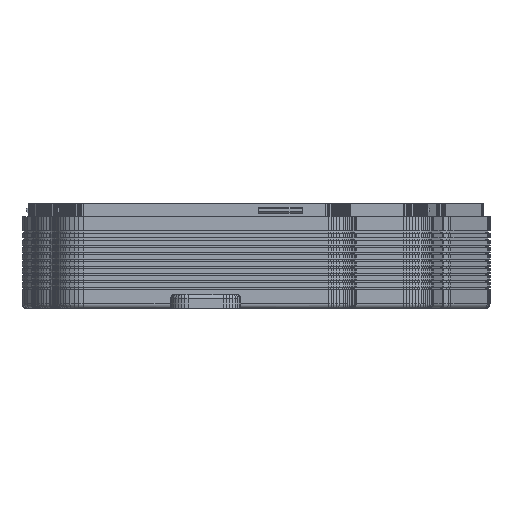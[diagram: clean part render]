
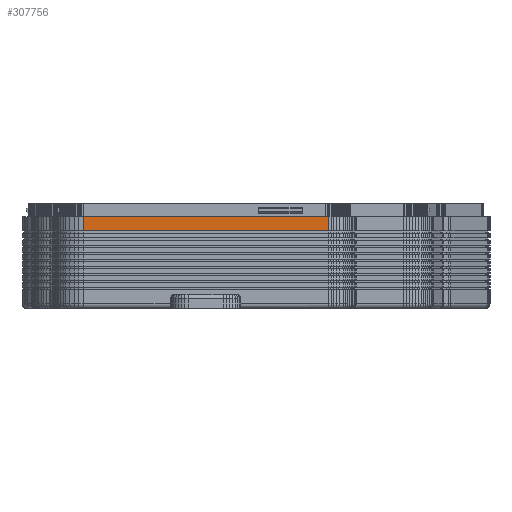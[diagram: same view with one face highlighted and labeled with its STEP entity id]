
A CAD part, left-side view. The second image highlights one B-rep face of the part: STEP entity #307756.
In plain terms, the highlighted planar face has unit normal (-1, 0, 0).
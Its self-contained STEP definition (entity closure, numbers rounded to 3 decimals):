
#43 = PLANE('',#44);
#44 = AXIS2_PLACEMENT_3D('',#45,#46,#47);
#45 = CARTESIAN_POINT('',(65.902,-25.832,-1.));
#46 = DIRECTION('',(0.,0.,1.));
#47 = DIRECTION('',(1.,0.,-0.));
#296941 = PLANE('',#296942);
#296942 = AXIS2_PLACEMENT_3D('',#296943,#296944,#296945);
#296943 = CARTESIAN_POINT('',(65.902,-25.832,
    -4.223));
#296944 = DIRECTION('',(0.,0.,1.));
#296945 = DIRECTION('',(1.,0.,-0.));
#301965 = VERTEX_POINT('',#301966);
#301966 = CARTESIAN_POINT('',(-15.424,8.601,
    -4.223));
#301980 = PLANE('',#301981);
#301981 = AXIS2_PLACEMENT_3D('',#301982,#301983,#301984);
#301982 = CARTESIAN_POINT('',(-15.328,9.67,
    -21.847));
#301983 = DIRECTION('',(0.996,-0.09,0.));
#301984 = DIRECTION('',(-0.09,-0.996,0.));
#301992 = EDGE_CURVE('',#301965,#301993,#301995,.T.);
#301993 = VERTEX_POINT('',#301994);
#301994 = CARTESIAN_POINT('',(-15.402,-47.167,
    -4.223));
#301995 = SURFACE_CURVE('',#301996,(#302000,#302007),.PCURVE_S1.);
#301996 = LINE('',#301997,#301998);
#301997 = CARTESIAN_POINT('',(-15.424,8.601,
    -4.223));
#301998 = VECTOR('',#301999,1.);
#301999 = DIRECTION('',(0.,-1.,0.));
#302000 = PCURVE('',#296941,#302001);
#302001 = DEFINITIONAL_REPRESENTATION('',(#302002),#302006);
#302002 = LINE('',#302003,#302004);
#302003 = CARTESIAN_POINT('',(-81.326,34.433));
#302004 = VECTOR('',#302005,1.);
#302005 = DIRECTION('',(0.,-1.));
#302006 = ( GEOMETRIC_REPRESENTATION_CONTEXT(2) 
PARAMETRIC_REPRESENTATION_CONTEXT() REPRESENTATION_CONTEXT('2D SPACE',''
  ) );
#302007 = PCURVE('',#302008,#302013);
#302008 = PLANE('',#302009);
#302009 = AXIS2_PLACEMENT_3D('',#302010,#302011,#302012);
#302010 = CARTESIAN_POINT('',(-15.424,8.601,
    -21.847));
#302011 = DIRECTION('',(1.,0.,-0.));
#302012 = DIRECTION('',(0.,-1.,0.));
#302013 = DEFINITIONAL_REPRESENTATION('',(#302014),#302018);
#302014 = LINE('',#302015,#302016);
#302015 = CARTESIAN_POINT('',(0.,-17.623));
#302016 = VECTOR('',#302017,1.);
#302017 = DIRECTION('',(1.,0.));
#302018 = ( GEOMETRIC_REPRESENTATION_CONTEXT(2) 
PARAMETRIC_REPRESENTATION_CONTEXT() REPRESENTATION_CONTEXT('2D SPACE',''
  ) );
#302036 = PLANE('',#302037);
#302037 = AXIS2_PLACEMENT_3D('',#302038,#302039,#302040);
#302038 = CARTESIAN_POINT('',(-15.402,-47.167,
    -21.847));
#302039 = DIRECTION('',(0.992,0.127,-0.));
#302040 = DIRECTION('',(0.127,-0.992,0.));
#307712 = EDGE_CURVE('',#301993,#307713,#307715,.T.);
#307713 = VERTEX_POINT('',#307714);
#307714 = CARTESIAN_POINT('',(-15.402,-47.167,-1.));
#307715 = SURFACE_CURVE('',#307716,(#307720,#307727),.PCURVE_S1.);
#307716 = LINE('',#307717,#307718);
#307717 = CARTESIAN_POINT('',(-15.402,-47.167,
    -21.847));
#307718 = VECTOR('',#307719,1.);
#307719 = DIRECTION('',(0.,0.,1.));
#307720 = PCURVE('',#302036,#307721);
#307721 = DEFINITIONAL_REPRESENTATION('',(#307722),#307726);
#307722 = LINE('',#307723,#307724);
#307723 = CARTESIAN_POINT('',(0.,0.));
#307724 = VECTOR('',#307725,1.);
#307725 = DIRECTION('',(0.,-1.));
#307726 = ( GEOMETRIC_REPRESENTATION_CONTEXT(2) 
PARAMETRIC_REPRESENTATION_CONTEXT() REPRESENTATION_CONTEXT('2D SPACE',''
  ) );
#307727 = PCURVE('',#302008,#307728);
#307728 = DEFINITIONAL_REPRESENTATION('',(#307729),#307733);
#307729 = LINE('',#307730,#307731);
#307730 = CARTESIAN_POINT('',(55.768,0.));
#307731 = VECTOR('',#307732,1.);
#307732 = DIRECTION('',(0.,-1.));
#307733 = ( GEOMETRIC_REPRESENTATION_CONTEXT(2) 
PARAMETRIC_REPRESENTATION_CONTEXT() REPRESENTATION_CONTEXT('2D SPACE',''
  ) );
#307756 = ADVANCED_FACE('',(#307757),#302008,.F.);
#307757 = FACE_BOUND('',#307758,.F.);
#307758 = EDGE_LOOP('',(#307759,#307760,#307783,#307804));
#307759 = ORIENTED_EDGE('',*,*,#301992,.F.);
#307760 = ORIENTED_EDGE('',*,*,#307761,.T.);
#307761 = EDGE_CURVE('',#301965,#307762,#307764,.T.);
#307762 = VERTEX_POINT('',#307763);
#307763 = CARTESIAN_POINT('',(-15.424,8.601,-1.));
#307764 = SURFACE_CURVE('',#307765,(#307769,#307776),.PCURVE_S1.);
#307765 = LINE('',#307766,#307767);
#307766 = CARTESIAN_POINT('',(-15.424,8.601,
    -21.847));
#307767 = VECTOR('',#307768,1.);
#307768 = DIRECTION('',(0.,0.,1.));
#307769 = PCURVE('',#302008,#307770);
#307770 = DEFINITIONAL_REPRESENTATION('',(#307771),#307775);
#307771 = LINE('',#307772,#307773);
#307772 = CARTESIAN_POINT('',(0.,0.));
#307773 = VECTOR('',#307774,1.);
#307774 = DIRECTION('',(0.,-1.));
#307775 = ( GEOMETRIC_REPRESENTATION_CONTEXT(2) 
PARAMETRIC_REPRESENTATION_CONTEXT() REPRESENTATION_CONTEXT('2D SPACE',''
  ) );
#307776 = PCURVE('',#301980,#307777);
#307777 = DEFINITIONAL_REPRESENTATION('',(#307778),#307782);
#307778 = LINE('',#307779,#307780);
#307779 = CARTESIAN_POINT('',(1.074,0.));
#307780 = VECTOR('',#307781,1.);
#307781 = DIRECTION('',(0.,-1.));
#307782 = ( GEOMETRIC_REPRESENTATION_CONTEXT(2) 
PARAMETRIC_REPRESENTATION_CONTEXT() REPRESENTATION_CONTEXT('2D SPACE',''
  ) );
#307783 = ORIENTED_EDGE('',*,*,#307784,.T.);
#307784 = EDGE_CURVE('',#307762,#307713,#307785,.T.);
#307785 = SURFACE_CURVE('',#307786,(#307790,#307797),.PCURVE_S1.);
#307786 = LINE('',#307787,#307788);
#307787 = CARTESIAN_POINT('',(-15.424,8.601,-1.));
#307788 = VECTOR('',#307789,1.);
#307789 = DIRECTION('',(0.,-1.,0.));
#307790 = PCURVE('',#302008,#307791);
#307791 = DEFINITIONAL_REPRESENTATION('',(#307792),#307796);
#307792 = LINE('',#307793,#307794);
#307793 = CARTESIAN_POINT('',(0.,-20.847));
#307794 = VECTOR('',#307795,1.);
#307795 = DIRECTION('',(1.,0.));
#307796 = ( GEOMETRIC_REPRESENTATION_CONTEXT(2) 
PARAMETRIC_REPRESENTATION_CONTEXT() REPRESENTATION_CONTEXT('2D SPACE',''
  ) );
#307797 = PCURVE('',#43,#307798);
#307798 = DEFINITIONAL_REPRESENTATION('',(#307799),#307803);
#307799 = LINE('',#307800,#307801);
#307800 = CARTESIAN_POINT('',(-81.326,34.433));
#307801 = VECTOR('',#307802,1.);
#307802 = DIRECTION('',(0.,-1.));
#307803 = ( GEOMETRIC_REPRESENTATION_CONTEXT(2) 
PARAMETRIC_REPRESENTATION_CONTEXT() REPRESENTATION_CONTEXT('2D SPACE',''
  ) );
#307804 = ORIENTED_EDGE('',*,*,#307712,.F.);
